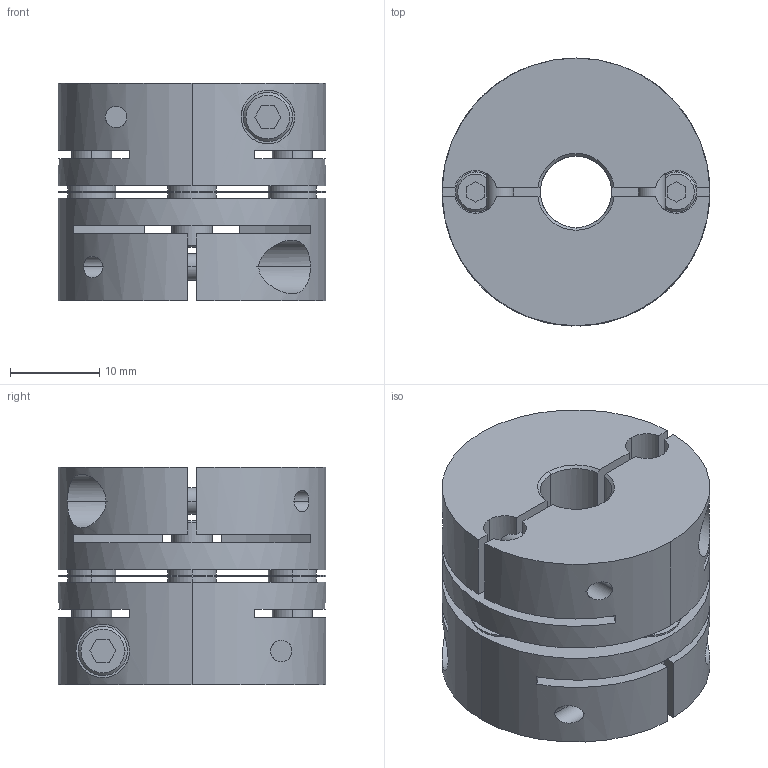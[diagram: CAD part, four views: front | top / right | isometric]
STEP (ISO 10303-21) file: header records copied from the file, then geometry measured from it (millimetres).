
FILE_DESCRIPTION((''),'2;1');
FILE_NAME('LAS-30C-8×12.stp','2011-08-10T13:15:00',(''),(''),'AutoCAD STEP 2000i','AutoCAD 2000i',', , ');
FILE_SCHEMA(('CONFIG_CONTROL_DESIGN'));
Length unit declared in the file: millimetre
Products named in the file (6): LAS-30C-6×10; 忣兜1; LA-3002-D10; LA-3002-D06-1; LA-3002-D06; LAS30-ITA
Assembly tree (5 placements, depth 2):
  LAS-30C-6×10
    忣兜1
    LA-3002-D10
    LA-3002-D06-1
    LA-3002-D06
    LAS30-ITA
Bounding box: 30 x 30 x 24.4 mm (x, y, z)
Volume: 12668.8 mm3; surface area: 9084.7 mm2
Topology: 1 solids, 1 shells, 240 faces, 636 edges, 416 vertices
Faces by surface type: plane 112, cylinder 100, cone 28
Entity records: 8333 total; most frequent: CARTESIAN_POINT 2034, DIRECTION 1316, ORIENTED_EDGE 1272, EDGE_CURVE 636, AXIS2_PLACEMENT_3D 482, VERTEX_POINT 416, VECTOR 352, LINE 352
